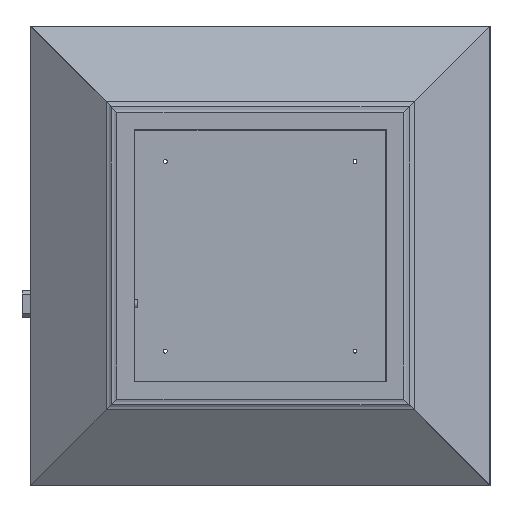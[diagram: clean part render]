
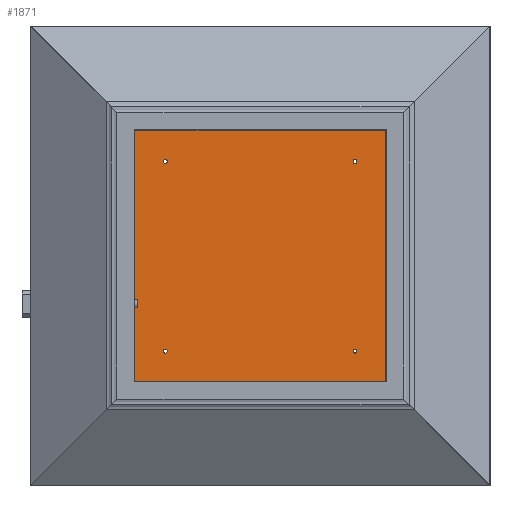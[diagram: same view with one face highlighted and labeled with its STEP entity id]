
A CAD part, top view. The second image highlights one B-rep face of the part: STEP entity #1871.
In plain terms, the highlighted planar face has unit normal (0, 0, 1) by its records, which use the part's own axes.
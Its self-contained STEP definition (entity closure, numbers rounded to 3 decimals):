
#51=CIRCLE('',#1976,5.);
#53=CIRCLE('',#1979,5.);
#55=CIRCLE('',#1982,5.);
#57=CIRCLE('',#1985,5.);
#59=CIRCLE('',#1988,5.);
#61=CIRCLE('',#1991,5.);
#63=CIRCLE('',#1994,5.);
#65=CIRCLE('',#1997,5.);
#71=CIRCLE('',#2007,7.);
#72=CIRCLE('',#2012,7.);
#73=CIRCLE('',#2013,7.);
#74=CIRCLE('',#2014,7.);
#105=FACE_BOUND('',#288,.T.);
#106=FACE_BOUND('',#289,.T.);
#107=FACE_BOUND('',#290,.T.);
#108=FACE_BOUND('',#291,.T.);
#109=FACE_BOUND('',#292,.T.);
#110=FACE_BOUND('',#293,.T.);
#111=FACE_BOUND('',#294,.T.);
#112=FACE_BOUND('',#295,.T.);
#169=FACE_OUTER_BOUND('',#287,.T.);
#287=EDGE_LOOP('',(#1303,#1304,#1305,#1306,#1307,#1308,#1309,#1310));
#288=EDGE_LOOP('',(#1311));
#289=EDGE_LOOP('',(#1312));
#290=EDGE_LOOP('',(#1313));
#291=EDGE_LOOP('',(#1314));
#292=EDGE_LOOP('',(#1315));
#293=EDGE_LOOP('',(#1316));
#294=EDGE_LOOP('',(#1317));
#295=EDGE_LOOP('',(#1318));
#430=LINE('',#2834,#621);
#441=LINE('',#2858,#632);
#442=LINE('',#2862,#633);
#443=LINE('',#2866,#634);
#621=VECTOR('',#2282,10.);
#632=VECTOR('',#2297,10.);
#633=VECTOR('',#2300,10.);
#634=VECTOR('',#2303,10.);
#796=VERTEX_POINT('',#2754);
#798=VERTEX_POINT('',#2759);
#800=VERTEX_POINT('',#2764);
#802=VERTEX_POINT('',#2769);
#804=VERTEX_POINT('',#2774);
#806=VERTEX_POINT('',#2779);
#808=VERTEX_POINT('',#2784);
#810=VERTEX_POINT('',#2789);
#822=VERTEX_POINT('',#2814);
#826=VERTEX_POINT('',#2822);
#829=VERTEX_POINT('',#2833);
#840=VERTEX_POINT('',#2857);
#841=VERTEX_POINT('',#2859);
#842=VERTEX_POINT('',#2861);
#843=VERTEX_POINT('',#2863);
#844=VERTEX_POINT('',#2865);
#970=EDGE_CURVE('',#796,#796,#51,.T.);
#972=EDGE_CURVE('',#798,#798,#53,.T.);
#974=EDGE_CURVE('',#800,#800,#55,.T.);
#976=EDGE_CURVE('',#802,#802,#57,.T.);
#978=EDGE_CURVE('',#804,#804,#59,.T.);
#980=EDGE_CURVE('',#806,#806,#61,.T.);
#982=EDGE_CURVE('',#808,#808,#63,.T.);
#984=EDGE_CURVE('',#810,#810,#65,.T.);
#1000=EDGE_CURVE('',#822,#826,#71,.T.);
#1005=EDGE_CURVE('',#822,#829,#430,.T.);
#1017=EDGE_CURVE('',#840,#826,#441,.T.);
#1018=EDGE_CURVE('',#840,#841,#72,.T.);
#1019=EDGE_CURVE('',#842,#841,#442,.T.);
#1020=EDGE_CURVE('',#842,#843,#73,.T.);
#1021=EDGE_CURVE('',#844,#843,#443,.T.);
#1022=EDGE_CURVE('',#844,#829,#74,.T.);
#1303=ORIENTED_EDGE('',*,*,#1000,.T.);
#1304=ORIENTED_EDGE('',*,*,#1017,.F.);
#1305=ORIENTED_EDGE('',*,*,#1018,.T.);
#1306=ORIENTED_EDGE('',*,*,#1019,.F.);
#1307=ORIENTED_EDGE('',*,*,#1020,.T.);
#1308=ORIENTED_EDGE('',*,*,#1021,.F.);
#1309=ORIENTED_EDGE('',*,*,#1022,.T.);
#1310=ORIENTED_EDGE('',*,*,#1005,.F.);
#1311=ORIENTED_EDGE('',*,*,#970,.T.);
#1312=ORIENTED_EDGE('',*,*,#972,.T.);
#1313=ORIENTED_EDGE('',*,*,#974,.T.);
#1314=ORIENTED_EDGE('',*,*,#976,.T.);
#1315=ORIENTED_EDGE('',*,*,#978,.T.);
#1316=ORIENTED_EDGE('',*,*,#980,.T.);
#1317=ORIENTED_EDGE('',*,*,#982,.T.);
#1318=ORIENTED_EDGE('',*,*,#984,.T.);
#1678=PLANE('',#2011);
#1871=ADVANCED_FACE('',(#169,#105,#106,#107,#108,#109,#110,#111,#112),#1678,
 .T.);
#1976=AXIS2_PLACEMENT_3D('',#2755,#2202,#2203);
#1979=AXIS2_PLACEMENT_3D('',#2760,#2208,#2209);
#1982=AXIS2_PLACEMENT_3D('',#2765,#2214,#2215);
#1985=AXIS2_PLACEMENT_3D('',#2770,#2220,#2221);
#1988=AXIS2_PLACEMENT_3D('',#2775,#2226,#2227);
#1991=AXIS2_PLACEMENT_3D('',#2780,#2232,#2233);
#1994=AXIS2_PLACEMENT_3D('',#2785,#2238,#2239);
#1997=AXIS2_PLACEMENT_3D('',#2790,#2244,#2245);
#2007=AXIS2_PLACEMENT_3D('',#2824,#2272,#2273);
#2011=AXIS2_PLACEMENT_3D('',#2856,#2295,#2296);
#2012=AXIS2_PLACEMENT_3D('',#2860,#2298,#2299);
#2013=AXIS2_PLACEMENT_3D('',#2864,#2301,#2302);
#2014=AXIS2_PLACEMENT_3D('',#2867,#2304,#2305);
#2202=DIRECTION('center_axis',(0.,0.,-1.));
#2203=DIRECTION('ref_axis',(0.707,0.707,0.));
#2208=DIRECTION('center_axis',(0.,0.,-1.));
#2209=DIRECTION('ref_axis',(0.,1.,0.));
#2214=DIRECTION('center_axis',(0.,0.,-1.));
#2215=DIRECTION('ref_axis',(-0.707,0.707,0.));
#2220=DIRECTION('center_axis',(0.,0.,-1.));
#2221=DIRECTION('ref_axis',(-1.,0.,0.));
#2226=DIRECTION('center_axis',(0.,0.,-1.));
#2227=DIRECTION('ref_axis',(-0.707,-0.707,0.));
#2232=DIRECTION('center_axis',(0.,0.,-1.));
#2233=DIRECTION('ref_axis',(0.,-1.,0.));
#2238=DIRECTION('center_axis',(0.,0.,-1.));
#2239=DIRECTION('ref_axis',(0.707,-0.707,0.));
#2244=DIRECTION('center_axis',(0.,0.,-1.));
#2245=DIRECTION('ref_axis',(1.,0.,0.));
#2272=DIRECTION('center_axis',(0.,0.,-1.));
#2273=DIRECTION('ref_axis',(1.,0.,0.));
#2282=DIRECTION('',(-1.,0.,0.));
#2295=DIRECTION('center_axis',(0.,0.,1.));
#2296=DIRECTION('ref_axis',(1.,0.,0.));
#2297=DIRECTION('',(0.,-1.,0.));
#2298=DIRECTION('center_axis',(0.,0.,-1.));
#2299=DIRECTION('ref_axis',(1.,0.,0.));
#2300=DIRECTION('',(1.,0.,0.));
#2301=DIRECTION('center_axis',(0.,0.,-1.));
#2302=DIRECTION('ref_axis',(-1.,0.,0.));
#2303=DIRECTION('',(0.,1.,0.));
#2304=DIRECTION('center_axis',(0.,0.,-1.));
#2305=DIRECTION('ref_axis',(-1.,0.,0.));
#2754=CARTESIAN_POINT('',(-241.831,-241.831,38.));
#2755=CARTESIAN_POINT('Origin',(-238.295,-238.295,38.));
#2759=CARTESIAN_POINT('',(0.,-342.,38.));
#2760=CARTESIAN_POINT('Origin',(0.,-337.,38.));
#2764=CARTESIAN_POINT('',(241.831,-241.831,38.));
#2765=CARTESIAN_POINT('Origin',(238.295,-238.295,38.));
#2769=CARTESIAN_POINT('',(342.,0.,38.));
#2770=CARTESIAN_POINT('Origin',(337.,0.,38.));
#2774=CARTESIAN_POINT('',(241.831,241.831,38.));
#2775=CARTESIAN_POINT('Origin',(238.295,238.295,38.));
#2779=CARTESIAN_POINT('',(0.,342.,38.));
#2780=CARTESIAN_POINT('Origin',(0.,337.,38.));
#2784=CARTESIAN_POINT('',(-241.831,241.831,38.));
#2785=CARTESIAN_POINT('Origin',(-238.295,238.295,38.));
#2789=CARTESIAN_POINT('',(-342.,0.,38.));
#2790=CARTESIAN_POINT('Origin',(-337.,0.,38.));
#2814=CARTESIAN_POINT('',(369.371,-370.84,38.));
#2822=CARTESIAN_POINT('',(370.84,-369.371,38.));
#2824=CARTESIAN_POINT('Origin',(375.,-375.,38.));
#2833=CARTESIAN_POINT('',(-369.371,-370.84,38.));
#2834=CARTESIAN_POINT('',(288.75,-370.84,38.));
#2856=CARTESIAN_POINT('Origin',(0.,0.,38.));
#2857=CARTESIAN_POINT('',(370.84,369.371,38.));
#2858=CARTESIAN_POINT('',(370.84,288.75,38.));
#2859=CARTESIAN_POINT('',(369.371,370.84,38.));
#2860=CARTESIAN_POINT('Origin',(375.,375.,38.));
#2861=CARTESIAN_POINT('',(-369.371,370.84,38.));
#2862=CARTESIAN_POINT('',(-288.75,370.84,38.));
#2863=CARTESIAN_POINT('',(-370.84,369.371,38.));
#2864=CARTESIAN_POINT('Origin',(-375.,375.,38.));
#2865=CARTESIAN_POINT('',(-370.84,-369.371,38.));
#2866=CARTESIAN_POINT('',(-370.84,-288.75,38.));
#2867=CARTESIAN_POINT('Origin',(-375.,-375.,38.));
